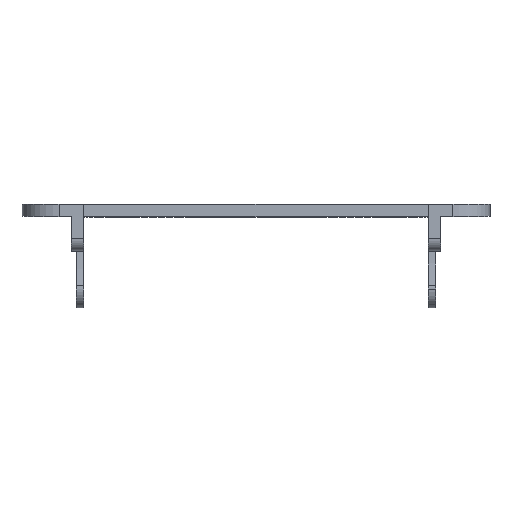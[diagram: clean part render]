
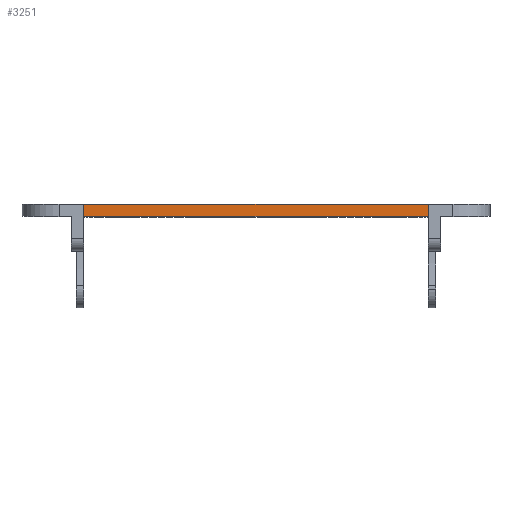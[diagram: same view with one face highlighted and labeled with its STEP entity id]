
A CAD part, top view. The second image highlights one B-rep face of the part: STEP entity #3251.
In plain terms, the highlighted planar face has unit normal (0, 0, 1).
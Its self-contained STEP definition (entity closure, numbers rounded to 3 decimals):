
#221 = DIRECTION ( 'NONE',  ( 0., -1., 0. ) ) ;
#223 = LINE ( 'NONE', #2839, #1846 ) ;
#267 = EDGE_CURVE ( 'NONE', #1265, #3059, #331, .T. ) ;
#290 = VERTEX_POINT ( 'NONE', #3658 ) ;
#320 = CARTESIAN_POINT ( 'NONE',  ( -69.7, 0., 49.5 ) ) ;
#331 = LINE ( 'NONE', #3837, #1905 ) ;
#372 = ORIENTED_EDGE ( 'NONE', *, *, #3141, .F. ) ;
#835 = ORIENTED_EDGE ( 'NONE', *, *, #3854, .F. ) ;
#935 = VECTOR ( 'NONE', #1924, 1000. ) ;
#1265 = VERTEX_POINT ( 'NONE', #1392 ) ;
#1392 = CARTESIAN_POINT ( 'NONE',  ( -69.7, 5., 49.5 ) ) ;
#1761 = EDGE_LOOP ( 'NONE', ( #2532, #835, #372, #1823 ) ) ;
#1823 = ORIENTED_EDGE ( 'NONE', *, *, #267, .T. ) ;
#1846 = VECTOR ( 'NONE', #3150, 1000. ) ;
#1877 = VERTEX_POINT ( 'NONE', #3593 ) ;
#1896 = CARTESIAN_POINT ( 'NONE',  ( -69.7, 5., 49.5 ) ) ;
#1898 = VECTOR ( 'NONE', #2012, 1000. ) ;
#1905 = VECTOR ( 'NONE', #221, 1000. ) ;
#1924 = DIRECTION ( 'NONE',  ( 1., 0., 0. ) ) ;
#2012 = DIRECTION ( 'NONE',  ( -1., 0., 0. ) ) ;
#2213 = DIRECTION ( 'NONE',  ( -1., 0., 0. ) ) ;
#2487 = CARTESIAN_POINT ( 'NONE',  ( -69.7, 5., 49.5 ) ) ;
#2532 = ORIENTED_EDGE ( 'NONE', *, *, #3453, .F. ) ;
#2622 = LINE ( 'NONE', #1896, #935 ) ;
#2628 = PLANE ( 'NONE',  #3484 ) ;
#2839 = CARTESIAN_POINT ( 'NONE',  ( 69.7, 5., 49.5 ) ) ;
#2912 = CARTESIAN_POINT ( 'NONE',  ( -69.7, 0., 49.5 ) ) ;
#3031 = LINE ( 'NONE', #2912, #1898 ) ;
#3059 = VERTEX_POINT ( 'NONE', #320 ) ;
#3141 = EDGE_CURVE ( 'NONE', #1265, #1877, #2622, .T. ) ;
#3150 = DIRECTION ( 'NONE',  ( 0., -1., 0. ) ) ;
#3251 = ADVANCED_FACE ( 'NONE', ( #3543 ), #2628, .F. ) ;
#3425 = DIRECTION ( 'NONE',  ( 0., 0., -1. ) ) ;
#3453 = EDGE_CURVE ( 'NONE', #290, #3059, #3031, .T. ) ;
#3484 = AXIS2_PLACEMENT_3D ( 'NONE', #2487, #3425, #2213 ) ;
#3543 = FACE_OUTER_BOUND ( 'NONE', #1761, .T. ) ;
#3593 = CARTESIAN_POINT ( 'NONE',  ( 69.7, 5., 49.5 ) ) ;
#3658 = CARTESIAN_POINT ( 'NONE',  ( 69.7, 0., 49.5 ) ) ;
#3837 = CARTESIAN_POINT ( 'NONE',  ( -69.7, 5., 49.5 ) ) ;
#3854 = EDGE_CURVE ( 'NONE', #1877, #290, #223, .T. ) ;
